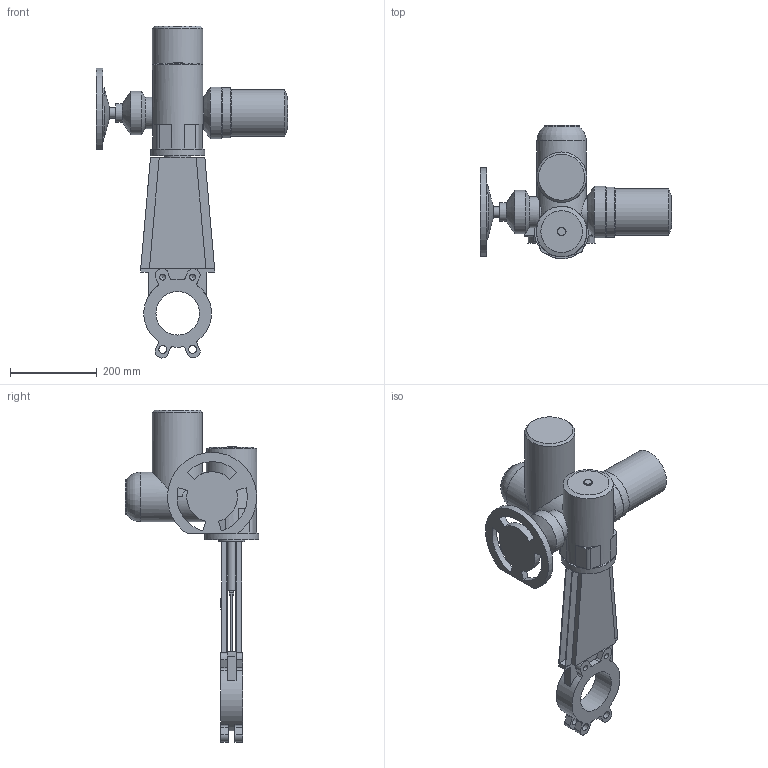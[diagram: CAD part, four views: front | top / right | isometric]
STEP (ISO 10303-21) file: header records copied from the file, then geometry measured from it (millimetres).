
FILE_DESCRIPTION(('STEP AP203'), '1');
FILE_NAME('K21GVA_DN100+MT903.A 07', '', ('UNSPECIFIED'), ('UNSPECIFIED'), 'ASCON STEP Converter 1.6', 'ASCON Math Kernel', '');
FILE_SCHEMA(('CONFIG_CONTROL_DESIGN'));
Length unit declared in the file: millimetre
Bounding box: 440 x 307.5 x 763.83 mm (x, y, z)
Volume: 9590824.1 mm3; surface area: 714666.6 mm2
Topology: 1 solids, 1 shells, 240 faces, 644 edges, 413 vertices
Faces by surface type: plane 143, cylinder 82, cone 14, torus 1
Full cylindrical faces by diameter (mm): 8.5 x4, 12 x4, 13.835 x4, 18 x4, 20 x2, 24 x1, 42 x1, 60 x1, 66 x1, 72 x1, 80 x1, 100 x2, 108 x1, 114 x1, 115 x1, 116 x2, 119 x1, 125 x1
Entity records: 10282 total; most frequent: CARTESIAN_POINT 2378, DIRECTION 1252, ORIENTED_EDGE 1182, EDGE_CURVE 591, AXIS2_PLACEMENT_3D 447, VERTEX_POINT 409, LINE 358, VECTOR 358
